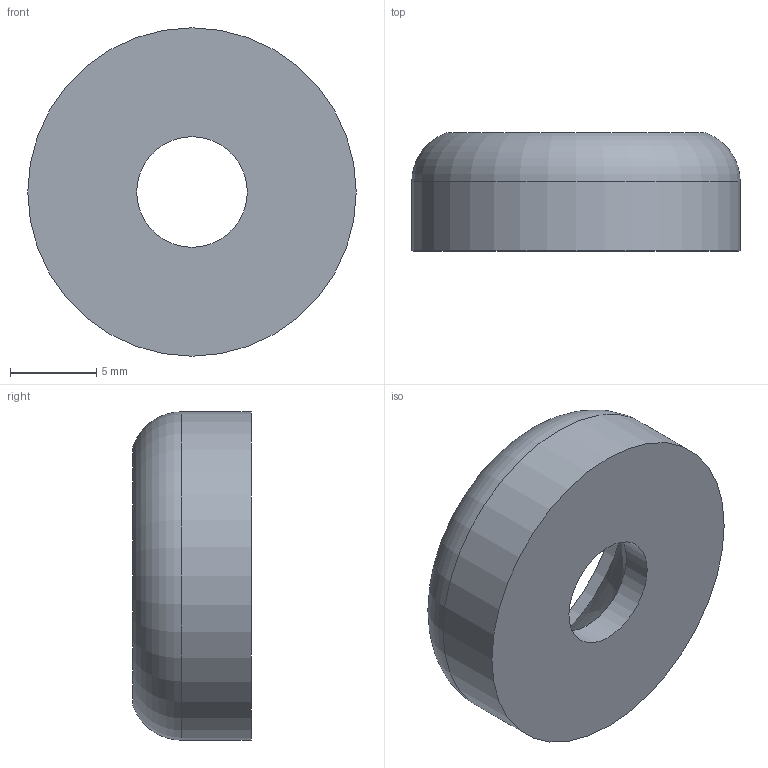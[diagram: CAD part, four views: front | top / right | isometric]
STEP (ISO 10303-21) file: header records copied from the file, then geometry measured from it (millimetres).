
FILE_DESCRIPTION(/* description */ ('Base ITPTv2.01.00.36'),/* implementation_level */ '2;1');
FILE_NAME(/* name */ 'ITPTv2.01.00.36.stp',/* time_stamp */ '2025-02-12T11:23:23+01:00',/* author */ ('Rüdiger Widera'),/* organization */ (''),/* preprocessor_version */ 'ST-DEVELOPER v19.2',/* originating_system */ 'Autodesk Inventor 2024',/* authorisation */ '');
FILE_SCHEMA (('AUTOMOTIVE_DESIGN { 1 0 10303 214 3 1 1 }'));
Length unit declared in the file: millimetre
Products named in the file (1): ITPTv2.01.00.36
Bounding box: 19 x 6.83 x 19 mm (x, y, z)
Volume: 1241.2 mm3; surface area: 971.9 mm2
Topology: 1 solids, 1 shells, 6 faces, 12 edges, 7 vertices
Faces by surface type: cylinder 3, cone 1, torus 1, plane 1
Full cylindrical faces by diameter (mm): 6.4 x1, 15 x1, 19 x1
Entity records: 207 total; most frequent: DIRECTION 34, CARTESIAN_POINT 26, ORIENTED_EDGE 24, AXIS2_PLACEMENT_3D 15, EDGE_CURVE 12, CIRCLE 8, EDGE_LOOP 7, VERTEX_POINT 7
